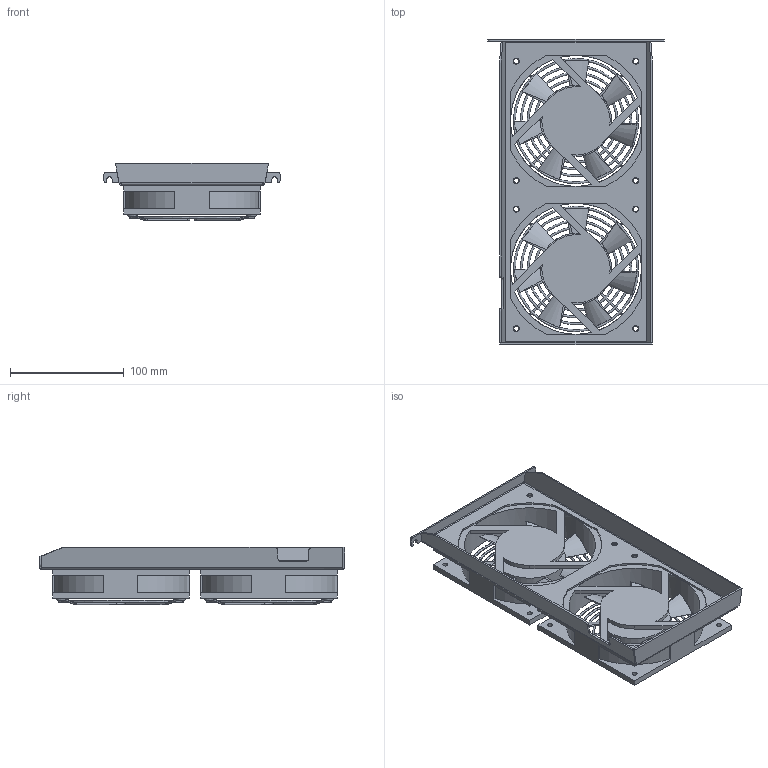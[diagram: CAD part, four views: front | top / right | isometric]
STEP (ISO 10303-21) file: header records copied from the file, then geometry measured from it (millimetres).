
FILE_DESCRIPTION (( 'STEP AP214' ), '1' );
FILE_NAME ('TSPF2_Rev0.step', '2012-07-26T14:41:32', ( '' ), ( '' ), 'SwSTEP 2.0', 'SolidWorks 2010', '' );
FILE_SCHEMA (( 'AUTOMOTIVE_DESIGN' ));
Length unit declared in the file: millimetre
Products named in the file (4): fan-120x120; TSPF2_Rev0; Fan-120-FingerGuard_Default; TSPF2
Assembly tree (5 placements, depth 2):
  TSPF2_Rev0
    fan-120x120  x2
    TSPF2
    Fan-120-FingerGuard_Default  x2
Bounding box: 155 x 268 x 50.13 mm (x, y, z)
Volume: 260301.7 mm3; surface area: 187715.8 mm2
Topology: 23 solids, 23 shells, 348 faces, 952 edges, 628 vertices
Faces by surface type: plane 138, bspline 110, cylinder 100
Full cylindrical faces by diameter (mm): 1.8 x8, 4.4 x16, 5.2 x8, 10 x2, 62.5 x2, 115 x2
Entity records: 9139 total; most frequent: CARTESIAN_POINT 3600, ORIENTED_EDGE 1140, DIRECTION 954, EDGE_CURVE 570, VERTEX_POINT 390, AXIS2_PLACEMENT_3D 324, LINE 306, VECTOR 306
